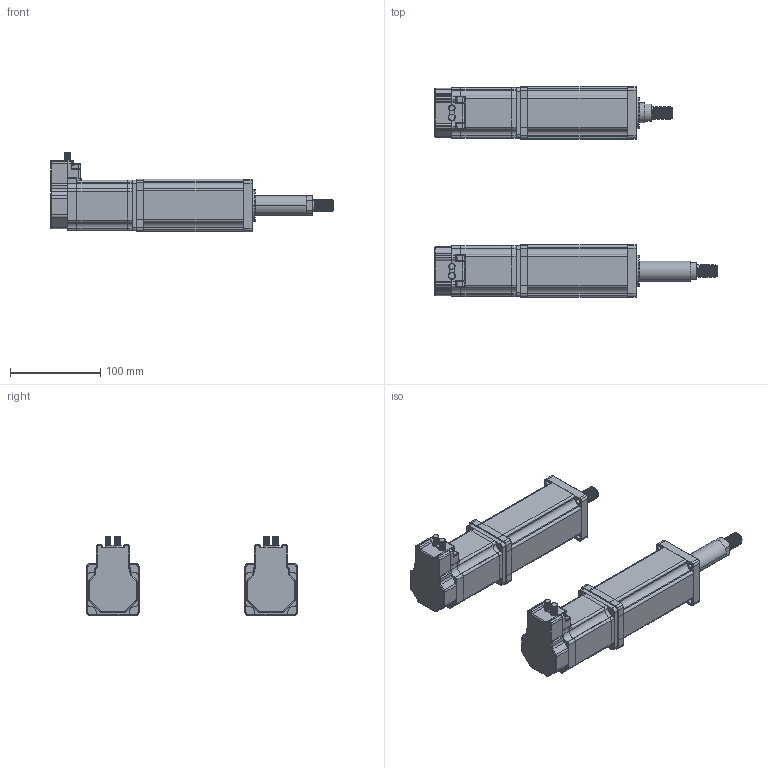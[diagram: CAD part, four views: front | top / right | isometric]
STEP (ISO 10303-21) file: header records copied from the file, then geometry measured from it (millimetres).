
FILE_DESCRIPTION(('STEP AP214'),'1');
FILE_NAME('\Tsurumi-main\3d_dad2\Servo_Motor\tmp0.STEP',' ',(' '),(' '),'XStep 1.0',' ',' ');
FILE_SCHEMA(('automotive_design'));
Length unit declared in the file: millimetre
Bounding box: 312.5 x 233.23 x 88.11 mm (x, y, z)
Volume: 1432364.9 mm3; surface area: 230405.8 mm2
Topology: 48 solids, 48 shells, 1828 faces, 5014 edges, 3286 vertices
Faces by surface type: plane 1250, cylinder 470, bspline 60, torus 36, sphere 8, cone 4
Entity records: 112259 total; most frequent: CARTESIAN_POINT 49708, ORIENTED_EDGE 9996, DIRECTION 9460, EDGE_CURVE 4998, LINE 3900, VECTOR 3900, VERTEX_POINT 3286, AXIS2_PLACEMENT_3D 2780
